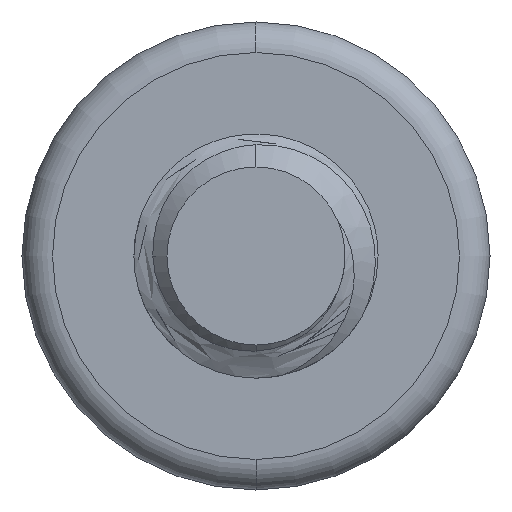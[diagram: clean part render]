
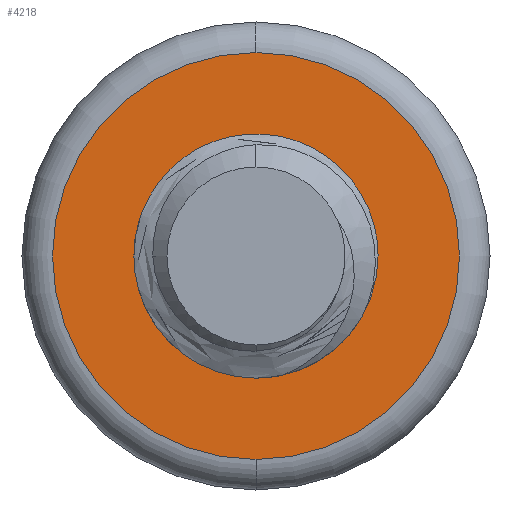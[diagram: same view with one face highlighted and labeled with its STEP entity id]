
A CAD part, left-side view. The second image highlights one B-rep face of the part: STEP entity #4218.
In plain terms, the highlighted planar face has unit normal (-1, 0, 0).
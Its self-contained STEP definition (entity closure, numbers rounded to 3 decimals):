
#168 = CARTESIAN_POINT ( 'NONE',  ( 6., 0.502, -0.322 ) ) ;
#188 = DIRECTION ( 'NONE',  ( -1., 0., 0. ) ) ;
#212 = CARTESIAN_POINT ( 'NONE',  ( 6., 0.15, -0.528 ) ) ;
#360 = EDGE_CURVE ( 'NONE', #1383, #2513, #2991, .T. ) ;
#423 = CIRCLE ( 'NONE', #4897, 1. ) ;
#471 = CARTESIAN_POINT ( 'NONE',  ( 6., 0., 0. ) ) ;
#487 = ORIENTED_EDGE ( 'NONE', *, *, #6215, .F. ) ;
#540 = B_SPLINE_CURVE_WITH_KNOTS ( 'NONE', 3,
 ( #4837, #2002, #5411, #2025, #5979, #2596, #6544, #3161, #7136, #3740 ),
 .UNSPECIFIED., .F., .F.,
 ( 4, 2, 2, 2, 4 ),
 ( 0., 0., 0.001, 0.001, 0.001 ),
 .UNSPECIFIED. ) ;
#701 = DIRECTION ( 'NONE',  ( 1., 0., 0. ) ) ;
#705 = CARTESIAN_POINT ( 'NONE',  ( 6., -0.403, -0.17 ) ) ;
#749 = VERTEX_POINT ( 'NONE', #6739 ) ;
#770 = CARTESIAN_POINT ( 'NONE',  ( 6., -0.155, -0.483 ) ) ;
#786 = CARTESIAN_POINT ( 'NONE',  ( 6., 0., 0. ) ) ;
#966 = DIRECTION ( 'NONE',  ( -1., 0., 0. ) ) ;
#1033 = DIRECTION ( 'NONE',  ( 0., 0., -1. ) ) ;
#1129 = CARTESIAN_POINT ( 'NONE',  ( 6., 0., -1. ) ) ;
#1283 = CARTESIAN_POINT ( 'NONE',  ( 6., 0.553, -0.233 ) ) ;
#1315 = CARTESIAN_POINT ( 'NONE',  ( 6., -0.379, -0.27 ) ) ;
#1335 = DIRECTION ( 'NONE',  ( 0., 0., -1. ) ) ;
#1373 = VERTEX_POINT ( 'NONE', #2953 ) ;
#1383 = VERTEX_POINT ( 'NONE', #1283 ) ;
#1554 = EDGE_CURVE ( 'NONE', #3380, #5682, #3157, .T. ) ;
#1580 = ORIENTED_EDGE ( 'NONE', *, *, #6080, .F. ) ;
#1824 = AXIS2_PLACEMENT_3D ( 'NONE', #4334, #966, #4886 ) ;
#2002 = CARTESIAN_POINT ( 'NONE',  ( 6., -0.379, 0.27 ) ) ;
#2012 = EDGE_CURVE ( 'NONE', #749, #4119, #2349, .T. ) ;
#2025 = CARTESIAN_POINT ( 'NONE',  ( 6., -0.155, 0.483 ) ) ;
#2121 = FACE_BOUND ( 'NONE', #4687, .T. ) ;
#2164 = CARTESIAN_POINT ( 'NONE',  ( 6., 0.553, 0.233 ) ) ;
#2349 = CIRCLE ( 'NONE', #1824, 1. ) ;
#2419 = CARTESIAN_POINT ( 'NONE',  ( 6., 0.553, -0.233 ) ) ;
#2513 = VERTEX_POINT ( 'NONE', #705 ) ;
#2596 = CARTESIAN_POINT ( 'NONE',  ( 6., 0.15, 0.528 ) ) ;
#2653 = CARTESIAN_POINT ( 'NONE',  ( 6., 0., 0. ) ) ;
#2906 = ORIENTED_EDGE ( 'NONE', *, *, #1554, .F. ) ;
#2917 = CARTESIAN_POINT ( 'NONE',  ( 6., 0., 0. ) ) ;
#2953 = CARTESIAN_POINT ( 'NONE',  ( 6., -0.403, 0.17 ) ) ;
#2991 = B_SPLINE_CURVE_WITH_KNOTS ( 'NONE', 3,
 ( #2419, #168, #6952, #3548, #212, #4140, #770, #4702, #1315, #5260 ),
 .UNSPECIFIED., .F., .F.,
 ( 4, 2, 2, 2, 4 ),
 ( 0., 0., 0.001, 0.001, 0.001 ),
 .UNSPECIFIED. ) ;
#3096 = AXIS2_PLACEMENT_3D ( 'NONE', #786, #4717, #1335 ) ;
#3157 = CIRCLE ( 'NONE', #5650, 0.6 ) ;
#3161 = CARTESIAN_POINT ( 'NONE',  ( 6., 0.428, 0.397 ) ) ;
#3222 = DIRECTION ( 'NONE',  ( 0., 0., -1. ) ) ;
#3380 = VERTEX_POINT ( 'NONE', #2164 ) ;
#3522 = CARTESIAN_POINT ( 'NONE',  ( 6., 0., 0. ) ) ;
#3548 = CARTESIAN_POINT ( 'NONE',  ( 6., 0.252, -0.5 ) ) ;
#3703 = EDGE_LOOP ( 'NONE', ( #6125, #6170 ) ) ;
#3740 = CARTESIAN_POINT ( 'NONE',  ( 6., 0.553, 0.233 ) ) ;
#3917 = AXIS2_PLACEMENT_3D ( 'NONE', #471, #4407, #1033 ) ;
#4072 = PLANE ( 'NONE',  #6842 ) ;
#4113 = DIRECTION ( 'NONE',  ( 0., 0., -1. ) ) ;
#4119 = VERTEX_POINT ( 'NONE', #1129 ) ;
#4140 = CARTESIAN_POINT ( 'NONE',  ( 6., -0.056, -0.518 ) ) ;
#4151 = CARTESIAN_POINT ( 'NONE',  ( 6., 0.6, 0. ) ) ;
#4218 = ADVANCED_FACE ( 'NONE', ( #4434, #2121 ), #4072, .F. ) ;
#4289 = CIRCLE ( 'NONE', #3096, 0.438 ) ;
#4334 = CARTESIAN_POINT ( 'NONE',  ( 6., 0., 0. ) ) ;
#4407 = DIRECTION ( 'NONE',  ( -1., 0., 0. ) ) ;
#4434 = FACE_OUTER_BOUND ( 'NONE', #3703, .T. ) ;
#4633 = DIRECTION ( 'NONE',  ( 0., 0., -1. ) ) ;
#4687 = EDGE_LOOP ( 'NONE', ( #2906, #1580, #7038, #7206, #487 ) ) ;
#4702 = CARTESIAN_POINT ( 'NONE',  ( 6., -0.32, -0.359 ) ) ;
#4717 = DIRECTION ( 'NONE',  ( 1., 0., 0. ) ) ;
#4837 = CARTESIAN_POINT ( 'NONE',  ( 6., -0.403, 0.17 ) ) ;
#4886 = DIRECTION ( 'NONE',  ( 0., 0., -1. ) ) ;
#4897 = AXIS2_PLACEMENT_3D ( 'NONE', #3522, #188, #4113 ) ;
#5136 = EDGE_CURVE ( 'NONE', #1373, #2513, #4289, .T. ) ;
#5260 = CARTESIAN_POINT ( 'NONE',  ( 6., -0.403, -0.17 ) ) ;
#5411 = CARTESIAN_POINT ( 'NONE',  ( 6., -0.32, 0.359 ) ) ;
#5650 = AXIS2_PLACEMENT_3D ( 'NONE', #2653, #6600, #3222 ) ;
#5682 = VERTEX_POINT ( 'NONE', #4151 ) ;
#5792 = CIRCLE ( 'NONE', #3917, 0.6 ) ;
#5979 = CARTESIAN_POINT ( 'NONE',  ( 6., -0.056, 0.518 ) ) ;
#6080 = EDGE_CURVE ( 'NONE', #1373, #3380, #540, .T. ) ;
#6125 = ORIENTED_EDGE ( 'NONE', *, *, #6416, .T. ) ;
#6170 = ORIENTED_EDGE ( 'NONE', *, *, #2012, .T. ) ;
#6215 = EDGE_CURVE ( 'NONE', #5682, #1383, #5792, .T. ) ;
#6416 = EDGE_CURVE ( 'NONE', #4119, #749, #423, .T. ) ;
#6544 = CARTESIAN_POINT ( 'NONE',  ( 6., 0.252, 0.501 ) ) ;
#6600 = DIRECTION ( 'NONE',  ( -1., 0., 0. ) ) ;
#6739 = CARTESIAN_POINT ( 'NONE',  ( 6., 0., 1. ) ) ;
#6842 = AXIS2_PLACEMENT_3D ( 'NONE', #2917, #701, #4633 ) ;
#6952 = CARTESIAN_POINT ( 'NONE',  ( 6., 0.428, -0.397 ) ) ;
#7038 = ORIENTED_EDGE ( 'NONE', *, *, #5136, .T. ) ;
#7136 = CARTESIAN_POINT ( 'NONE',  ( 6., 0.502, 0.322 ) ) ;
#7206 = ORIENTED_EDGE ( 'NONE', *, *, #360, .F. ) ;
